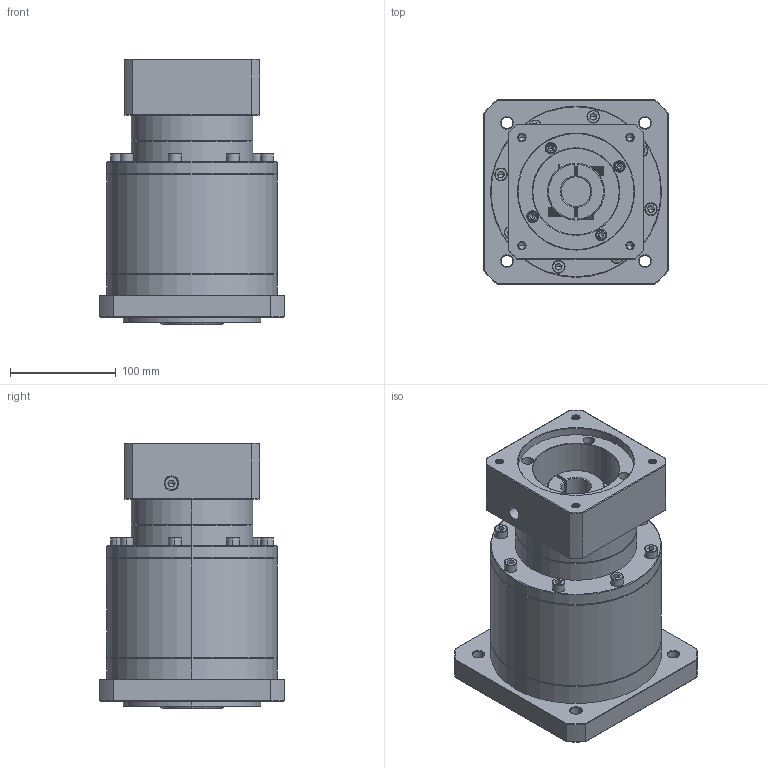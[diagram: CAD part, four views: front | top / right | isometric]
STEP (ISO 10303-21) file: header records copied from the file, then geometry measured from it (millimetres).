
FILE_DESCRIPTION (( 'STEP AP214' ), '1' );
FILE_NAME ('ZF160A-K35-L3-P2-28-110-145-M8.step', '2023-09-03T08:00:18', ( '' ), ( '' ), 'SwSTEP 2.0', 'SolidWorks 2016', '' );
FILE_SCHEMA (( 'AUTOMOTIVE_DESIGN' ));
Length unit declared in the file: millimetre
Products named in the file (1): ZF160A-K35-L3-P2-28-110-145-M8
Bounding box: 175 x 175 x 251.7 mm (x, y, z)
Volume: 4247113.5 mm3; surface area: 289916.2 mm2
Topology: 6 solids, 6 shells, 2362 faces, 6210 edges, 3973 vertices
Faces by surface type: plane 1111, cylinder 448, bspline 398, cone 349, torus 56
Entity records: 124508 total; most frequent: CARTESIAN_POINT 45256, ORIENTED_EDGE 12316, DIRECTION 9378, EDGE_CURVE 6158, VERTEX_POINT 3973, VECTOR 3312, LINE 3312, AXIS2_PLACEMENT_3D 3033
